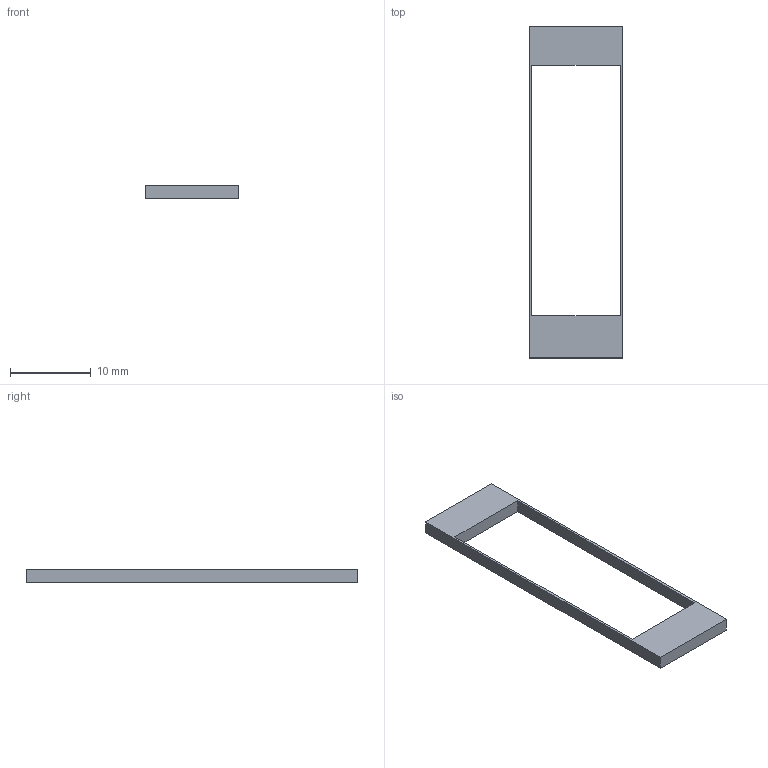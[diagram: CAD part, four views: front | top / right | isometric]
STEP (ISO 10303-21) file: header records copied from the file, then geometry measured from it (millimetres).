
FILE_DESCRIPTION(('Open CASCADE Model'),'2;1');
FILE_NAME('Open CASCADE Shape Model','2026-05-31T19:44:12',('Author'),( 'Open CASCADE'),'Open CASCADE STEP processor 7.6','Open CASCADE 7.6' ,'Unknown');
FILE_SCHEMA(('AP242_MANAGED_MODEL_BASED_3D_ENGINEERING_MIM_LF. {1 0 10303 442 1 1 4 }'));
Length unit declared in the file: millimetre
Products named in the file (1): Open CASCADE STEP translator 7.6 9
Bounding box: 11.6 x 41.18 x 1.66 mm (x, y, z)
Volume: 224 mm3; surface area: 585 mm2
Topology: 1 solids, 1 shells, 10 faces, 24 edges, 16 vertices
Faces by surface type: plane 10
Entity records: 614 total; most frequent: CARTESIAN_POINT 99, DIRECTION 94, LINE 72, VECTOR 72, ORIENTED_EDGE 48, PCURVE 48, DEFINITIONAL_REPRESENTATION 48, EDGE_CURVE 24
